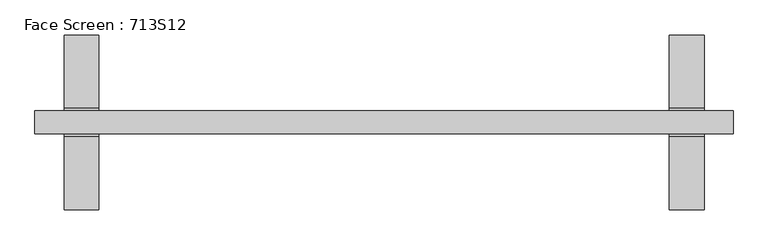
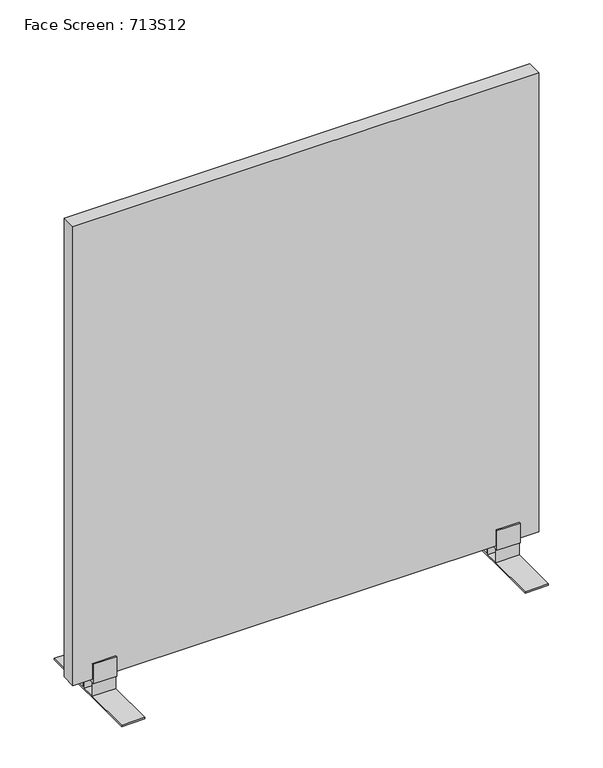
"""IFC4 building model written with IfcOpenShell, lengths in millimetres: furniture geometry, Face Screen : 713S12."""

from ifc_helpers import new_model, si_unit, frame, origin, place, context, project, spatial, polyline, outline, extrude, source, transform, mapped, element, save


def face_screen_713s12_4cacd4ec(model_context):
    return source(origin(), model_context, "Body", "SweptSolid", [
        extrude(outline(polyline([(-20.0, 4.0), (-20.0, 40.0), (-24.0, 40.0), (-24.0000047, 93.0166638), (-20.0, 93.0166638), (-20.0, 50.0955899), (20.0, 50.0955899), (20.0, 93.0166638), (24.0, 93.0166638), (23.9999953, 40.0), (20.0, 40.0), (20.0, 4.0), (149.9935713, 4.0), (149.9935713, 0.0), (-150.0064287, 0.0), (-150.0064287, 4.0), (-20.0, 4.0)]), holes=[polyline([(16.0, 40.0), (-16.0, 40.0), (-16.0, 4.0), (16.0, 4.0), (16.0, 40.0)])]), frame((490.0, 0.0, 0.0), z_axis=(1.0, 0.0, 0.0), x_axis=(0.0, 1.0, 0.0)), (0.0, 0.0, 1.0), 60.0),
        extrude(outline(polyline([(20.0, 4.0), (150.0064287, 4.0), (150.0064287, 0.0), (-149.9935713, 0.0), (-149.9935713, 4.0), (-20.0, 4.0), (-20.0, 40.0), (-23.9999953, 40.0), (-24.0, 93.0166638), (-20.0, 93.0166638), (-20.0, 50.0955899), (20.0, 50.0955899), (20.0, 93.0166638), (24.0000047, 93.0166638), (24.0, 40.0), (20.0, 40.0), (20.0, 4.0)]), holes=[polyline([(-16.0, 40.0), (-16.0, 4.0), (16.0, 4.0), (16.0, 40.0), (-16.0, 40.0)])]), frame((-550.0, 0.0, 0.0), z_axis=(1.0, 0.0, 0.0), x_axis=(0.0, 1.0, 0.0)), (0.0, 0.0, 1.0), 60.0),
        extrude(outline(polyline([(600.0, 20.0), (600.0, -20.0), (-600.0, -20.0), (-600.0, 20.0), (600.0, 20.0)])), frame((0.0, 0.0, 50.0), z_axis=(0.0, 0.0, 1.0), x_axis=(1.0, 0.0, 0.0)), (0.0, 0.0, 1.0), 1250.0),
    ])


if __name__ == "__main__":
    model = new_model("IFC4")
    model_context = context("Model", 3, world=origin())
    ifc_project = project(units=[si_unit("LENGTHUNIT", "METRE", prefix="MILLI")], contexts=[model_context])
    site = spatial("IfcSite", under=ifc_project)
    building = spatial("IfcBuilding", under=site)
    placement = place(None, origin())
    face_screen_713s12_shape = face_screen_713s12_4cacd4ec(model_context)
    element("IfcFurniture", 1, ObjectType="Face Screen : 713S12", at=placement, inside=building, context=model_context, shape_type="MappedRepresentation", body=[
        mapped(face_screen_713s12_shape, transform((0.0, 0.0, 0.0), x_axis=(1.0, 0.0, 0.0), y_axis=(0.0, 1.0, 0.0), z_axis=(0.0, 0.0, 1.0))),
    ])
    save(model, "model.ifc")
